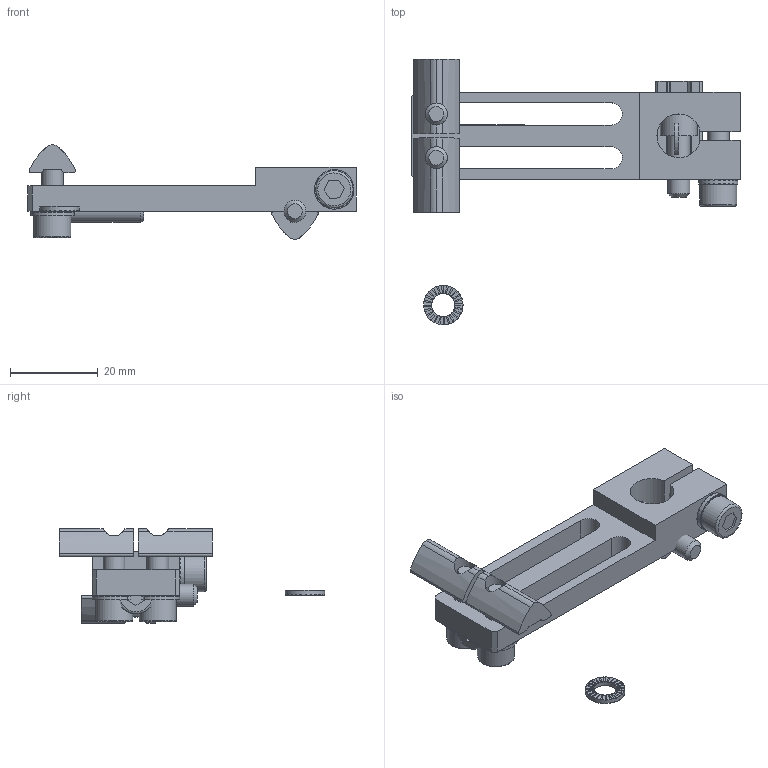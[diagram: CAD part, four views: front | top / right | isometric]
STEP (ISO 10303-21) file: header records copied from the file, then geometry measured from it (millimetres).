
FILE_DESCRIPTION( ( 'Unknown' ), '1' );
FILE_NAME( 'C:/Users/Fabrizio/Desktop/DISEGNI ACCESSORI FP SOLIDEDGE/CA.04.02.10.6.stp', 'Unknown', ( 'Unknown' ), ( 'Unknown' ), 'PSStep 13.0', 'Unknown', ' ' );
FILE_SCHEMA( ( 'AUTOMOTIVE_DESIGN { 1 0 10303 214 1 1 1 1 }' ) );
Length unit declared in the file: millimetre
Products named in the file (8): CA.04.02.10; Assem1; 04.02.10; V-tcei M  5 x 20; R.5.SCH; V-tcei M 5 x 14; rondellaDIN 125 - A 5.3; CA.02.05.005
Bounding box: 75 x 60.63 x 21.6 mm (x, y, z)
Volume: 25770.8 mm3; surface area: 21269.7 mm2
Topology: 15 solids, 18 shells, 825 faces, 2346 edges, 1554 vertices
Faces by surface type: plane 717, cylinder 90, cone 9, torus 9
Full cylindrical faces by diameter (mm): 4.134 x3, 5 x9, 5.2 x3, 5.3 x6, 8.5 x6, 9 x3, 10 x3
Entity records: 11608 total; most frequent: CARTESIAN_POINT 1650, DIRECTION 1570, ORIENTED_EDGE 1520, EDGE_CURVE 760, AXIS2_PLACEMENT_3D 534, VERTEX_POINT 514, LINE 502, VECTOR 502
